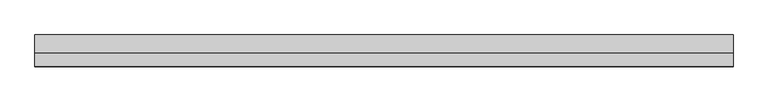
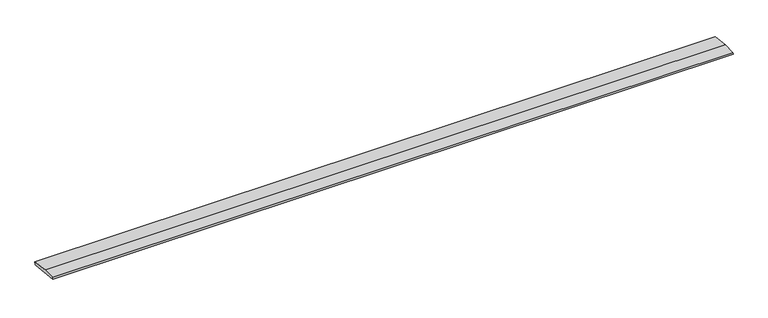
"""IFC4 building model written with IfcOpenShell, lengths in millimetres: beam geometry, weatherboad : weatherboad."""

from ifc_helpers import new_model, si_unit, frame, origin, place, context, project, spatial, polyline, outline, extrude, source, transform, mapped, element, save


def beam_f3d7bc39(model_context):
    return source(origin(), model_context, "Body", "SweptSolid", [
        extrude(outline(polyline([(0.0, -9.143159), (1.1226388, 0.0), (79.0749747, 0.0), (180.9387048, -12.5072934), (178.6231873, -31.3656703), (0.0, -9.143159)])), frame((-1970.2461987, 0.0, 0.0), z_axis=(1.0, 0.0, 0.0), x_axis=(0.0, 1.0, 0.0)), (0.0, 0.0, 1.0), 3940.4923973),
    ])


if __name__ == "__main__":
    model = new_model("IFC4")
    model_context = context("Model", 3, world=origin())
    ifc_project = project(units=[si_unit("LENGTHUNIT", "METRE", prefix="MILLI")], contexts=[model_context])
    site = spatial("IfcSite", under=ifc_project)
    building = spatial("IfcBuilding", under=site)
    placement = place(None, origin())
    beam_shape = beam_f3d7bc39(model_context)
    element("IfcBeam", 1, ObjectType="weatherboad : weatherboad", at=placement, inside=building, context=model_context, shape_type="MappedRepresentation", body=[
        mapped(beam_shape, transform((0.0, 0.0, 0.0), x_axis=(1.0, 0.0, 0.0), y_axis=(0.0, 1.0, 0.0), z_axis=(0.0, 0.0, 1.0))),
    ])
    save(model, "model.ifc")
